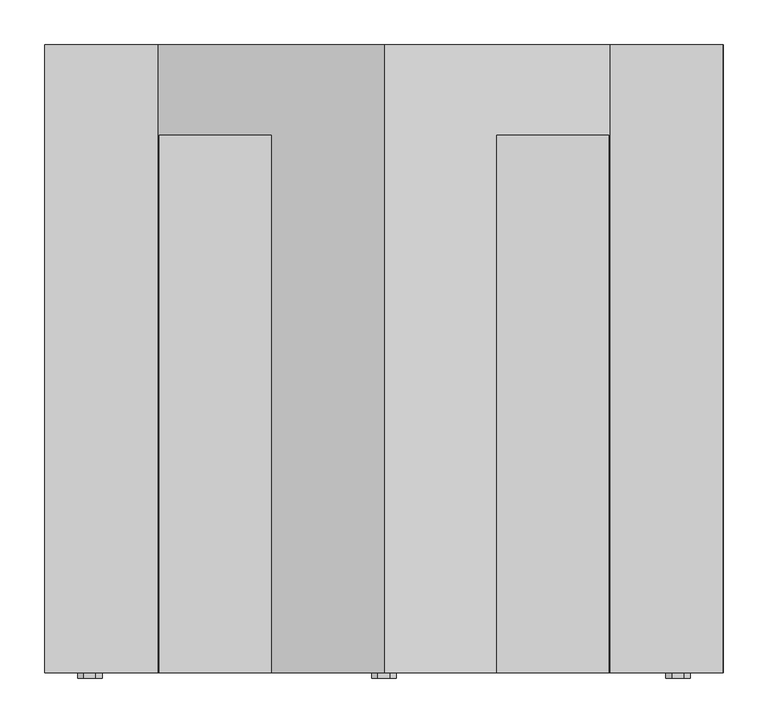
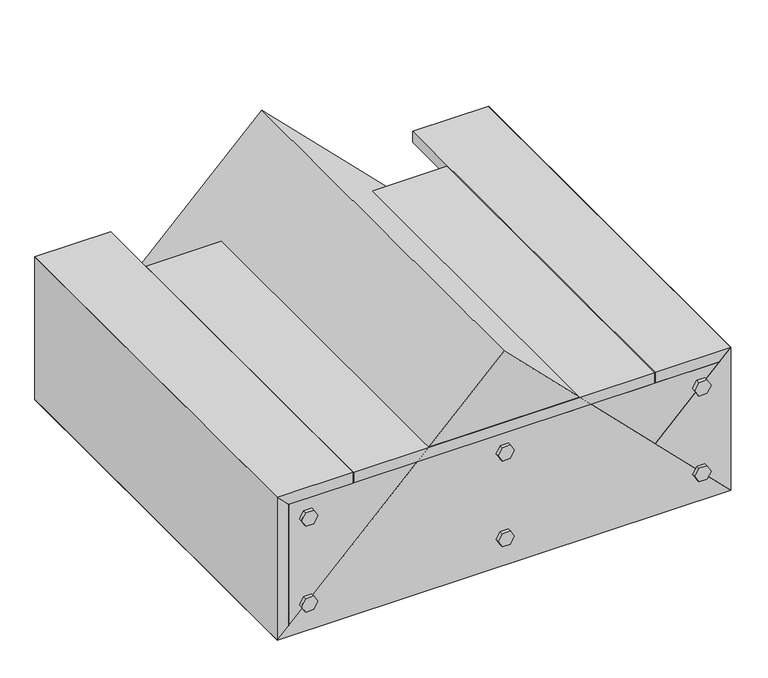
"""IFC4 building model written with IfcOpenShell, lengths in millimetres: proxy geometry, CCN^STANDARD_10X30 PAINTED CENTER BASE-ASSEMBLY."""

from ifc_helpers import new_model, si_unit, frame, origin, place, context, project, spatial, polyline, outline, extrude, source, transform, mapped, element, save


def generic_models_e65374a2(model_context):
    return source(origin(), model_context, "Body", "SweptSolid", [
        extrude(outline(polyline([(633.4125, 0.0), (128.5875, 0.0), (128.5875, 603.25), (633.4125, 603.25), (633.4125, 0.0)])), frame((0.0, 0.0, -19.05), z_axis=(0.0, 0.0, 1.0), x_axis=(1.0, 0.0, 0.0)), (0.0, 0.0, 1.0), 19.05),
        extrude(outline(polyline([(-127.0, 635.0), (-254.0, 762.0), (0.0, 762.0), (-127.0, 635.0)])), frame((0.0, 0.0, 0.0), z_axis=(0.0, 1.0, 0.0), x_axis=(0.0, 0.0, 1.0)), (0.0, 0.0, 1.0), 704.85),
        extrude(outline(polyline([(-254.0, 762.0), (127.0, 381.0), (-254.0, 0.0), (-254.0, 762.0)])), frame((0.0, 0.0, 0.0), z_axis=(0.0, 1.0, 0.0), x_axis=(0.0, 0.0, 1.0)), (0.0, 0.0, 1.0), 704.85),
        extrude(outline(polyline([(0.0, 127.0), (0.0, 0.0), (-19.05, 19.05), (-19.05, 127.0), (0.0, 127.0)])), frame((0.0, 0.0, 0.0), z_axis=(0.0, 1.0, 0.0), x_axis=(0.0, 0.0, 1.0)), (0.0, 0.0, 1.0), 704.85),
        extrude(outline(polyline([(-62.70625, 704.3259234), (-62.70625, 718.0740766), (-50.8, 724.9481533), (-38.89375, 718.0740766), (-38.89375, 704.3259234), (-50.8, 697.4518467), (-62.70625, 704.3259234)])), frame((0.0, -6.35, 0.0), z_axis=(0.0, 1.0, 0.0), x_axis=(0.0, 0.0, 1.0)), (0.0, 0.0, 1.0), 6.35),
        extrude(outline(polyline([(-19.05, 635.0), (-19.05, 742.95), (0.0, 762.0), (0.0, 635.0), (-19.05, 635.0)])), frame((0.0, 0.0, 0.0), z_axis=(0.0, 1.0, 0.0), x_axis=(0.0, 0.0, 1.0)), (0.0, 0.0, 1.0), 704.85),
        extrude(outline(polyline([(742.95, 0.0), (19.05, 0.0), (19.05, 25.4), (742.95, 25.4), (742.95, 0.0)])), frame((0.0, 0.0, -234.95), z_axis=(0.0, 0.0, 1.0), x_axis=(1.0, 0.0, 0.0)), (0.0, 0.0, 1.0), 215.9),
        extrude(outline(polyline([(-62.70625, 43.9259234), (-62.70625, 57.6740766), (-50.8, 64.5481533), (-38.89375, 57.6740766), (-38.89375, 43.9259234), (-50.8, 37.0518467), (-62.70625, 43.9259234)])), frame((0.0, -6.35, 0.0), z_axis=(0.0, 1.0, 0.0), x_axis=(0.0, 0.0, 1.0)), (0.0, 0.0, 1.0), 6.35),
        extrude(outline(polyline([(-215.10625, 374.1259234), (-215.10625, 387.8740766), (-203.2, 394.7481533), (-191.29375, 387.8740766), (-191.29375, 374.1259234), (-203.2, 367.2518467), (-215.10625, 374.1259234)])), frame((0.0, -6.35, 0.0), z_axis=(0.0, 1.0, 0.0), x_axis=(0.0, 0.0, 1.0)), (0.0, 0.0, 1.0), 6.35),
        extrude(outline(polyline([(-62.70625, 374.1259234), (-62.70625, 387.8740766), (-50.8, 394.7481533), (-38.89375, 387.8740766), (-38.89375, 374.1259234), (-50.8, 367.2518467), (-62.70625, 374.1259234)])), frame((0.0, -6.35, 0.0), z_axis=(0.0, 1.0, 0.0), x_axis=(0.0, 0.0, 1.0)), (0.0, 0.0, 1.0), 6.35),
        extrude(outline(polyline([(-215.10625, 43.9259234), (-215.10625, 57.6740766), (-203.2, 64.5481533), (-191.29375, 57.6740766), (-191.29375, 43.9259234), (-203.2, 37.0518467), (-215.10625, 43.9259234)])), frame((0.0, -6.35, 0.0), z_axis=(0.0, 1.0, 0.0), x_axis=(0.0, 0.0, 1.0)), (0.0, 0.0, 1.0), 6.35),
        extrude(outline(polyline([(-215.10625, 704.3259234), (-215.10625, 718.0740766), (-203.2, 724.9481533), (-191.29375, 718.0740766), (-191.29375, 704.3259234), (-203.2, 697.4518467), (-215.10625, 704.3259234)])), frame((0.0, -6.35, 0.0), z_axis=(0.0, 1.0, 0.0), x_axis=(0.0, 0.0, 1.0)), (0.0, 0.0, 1.0), 6.35),
        extrude(outline(polyline([(-127.0, 127.0), (0.0, 0.0), (-254.0, 0.0), (-127.0, 127.0)])), frame((0.0, 0.0, 0.0), z_axis=(0.0, 1.0, 0.0), x_axis=(0.0, 0.0, 1.0)), (0.0, 0.0, 1.0), 704.85),
    ])


if __name__ == "__main__":
    model = new_model("IFC4")
    model_context = context("Model", 3, world=origin())
    ifc_project = project(units=[si_unit("LENGTHUNIT", "METRE", prefix="MILLI")], contexts=[model_context])
    site = spatial("IfcSite", under=ifc_project)
    building = spatial("IfcBuilding", under=site)
    placement = place(None, origin())
    generic_models_shape = generic_models_e65374a2(model_context)
    element("IfcBuildingElementProxy", 1, Name="CCN^STANDARD_10X30 PAINTED CENTER BASE-ASSEMBLY", ObjectType="CCN^STANDARD_10X30 PAINTED CENTER BASE-ASSEMBLY", at=placement, inside=building, context=model_context, shape_type="MappedRepresentation", body=[
        mapped(generic_models_shape, transform((0.0, 0.0, 0.0), x_axis=(1.0, 0.0, 0.0), y_axis=(0.0, 1.0, 0.0), z_axis=(0.0, 0.0, 1.0))),
    ])
    save(model, "model.ifc")
